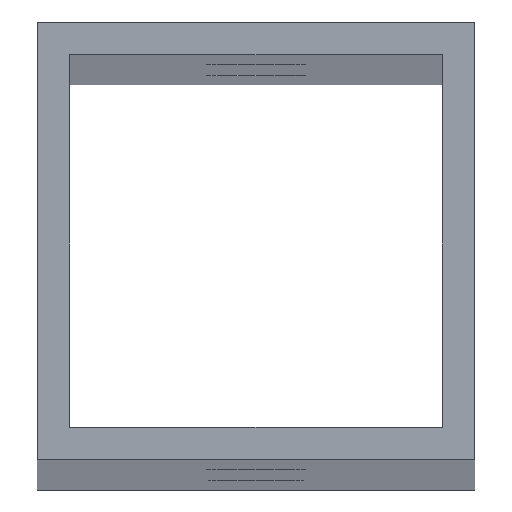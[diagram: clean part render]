
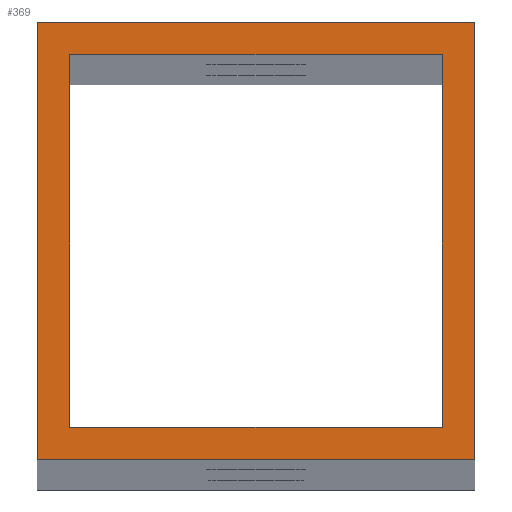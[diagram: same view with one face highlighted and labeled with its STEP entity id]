
A CAD part, top view. The second image highlights one B-rep face of the part: STEP entity #369.
In plain terms, the highlighted planar face has unit normal (0, 0, 1).
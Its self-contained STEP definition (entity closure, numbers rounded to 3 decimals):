
#37=CARTESIAN_POINT('',(3240.0,338.822,1700.0));
#38=VERTEX_POINT('',#37);
#45=CARTESIAN_POINT('',(3200.0,338.822,1700.0));
#46=VERTEX_POINT('',#45);
#47=CARTESIAN_POINT('',(3200.0,338.822,1700.0));
#48=DIRECTION('',(1.0,0.0,0.0));
#49=VECTOR('',#48,1.);
#50=LINE('',#47,#49);
#51=EDGE_CURVE('',#46,#38,#50,.T.);
#97=CARTESIAN_POINT('',(3240.0,378.822,1700.0));
#98=VERTEX_POINT('',#97);
#105=CARTESIAN_POINT('',(3240.0,338.822,1700.0));
#106=DIRECTION('',(0.,1.0,0.0));
#107=VECTOR('',#106,1.);
#108=LINE('',#105,#107);
#109=EDGE_CURVE('',#38,#98,#108,.T.);
#172=CARTESIAN_POINT('',(3200.0,378.822,1700.0));
#173=VERTEX_POINT('',#172);
#180=CARTESIAN_POINT('',(3240.0,378.822,1700.0));
#181=DIRECTION('',(-1.0,0.,0.0));
#182=VECTOR('',#181,1.);
#183=LINE('',#180,#182);
#184=EDGE_CURVE('',#98,#173,#183,.T.);
#224=CARTESIAN_POINT('',(3200.0,378.822,1700.0));
#225=DIRECTION('',(0.,-1.0,0.0));
#226=VECTOR('',#225,1.);
#227=LINE('',#224,#226);
#228=EDGE_CURVE('',#173,#46,#227,.T.);
#324=CARTESIAN_POINT('',(3200.0,338.822,1700.0));
#325=DIRECTION('',(0.0,0.0,1.0));
#326=DIRECTION('',(1.0,0.0,0.0));
#327=AXIS2_PLACEMENT_3D('',#324,#325,#326);
#328=PLANE('',#327);
#329=ORIENTED_EDGE('',*,*,#51,.T.);
#330=ORIENTED_EDGE('',*,*,#109,.T.);
#331=ORIENTED_EDGE('',*,*,#184,.T.);
#332=ORIENTED_EDGE('',*,*,#228,.T.);
#333=EDGE_LOOP('',(#329,#330,#331,#332));
#334=FACE_OUTER_BOUND('',#333,.T.);
#335=CARTESIAN_POINT('',(3203.0,375.822,1700.0));
#336=VERTEX_POINT('',#335);
#337=CARTESIAN_POINT('',(3203.0,341.822,1700.0));
#338=VERTEX_POINT('',#337);
#339=CARTESIAN_POINT('',(3203.0,375.822,1700.0));
#340=DIRECTION('',(0.0,-1.0,0.0));
#341=VECTOR('',#340,1.);
#342=LINE('',#339,#341);
#343=EDGE_CURVE('',#336,#338,#342,.T.);
#344=ORIENTED_EDGE('',*,*,#343,.F.);
#345=CARTESIAN_POINT('',(3237.0,375.822,1700.0));
#346=VERTEX_POINT('',#345);
#347=CARTESIAN_POINT('',(3237.0,375.822,1700.0));
#348=DIRECTION('',(-1.0,0.0,0.0));
#349=VECTOR('',#348,1.);
#350=LINE('',#347,#349);
#351=EDGE_CURVE('',#346,#336,#350,.T.);
#352=ORIENTED_EDGE('',*,*,#351,.F.);
#353=CARTESIAN_POINT('',(3237.0,341.822,1700.0));
#354=VERTEX_POINT('',#353);
#355=CARTESIAN_POINT('',(3237.0,341.822,1700.0));
#356=DIRECTION('',(0.0,1.0,0.0));
#357=VECTOR('',#356,1.);
#358=LINE('',#355,#357);
#359=EDGE_CURVE('',#354,#346,#358,.T.);
#360=ORIENTED_EDGE('',*,*,#359,.F.);
#361=CARTESIAN_POINT('',(3203.0,341.822,1700.0));
#362=DIRECTION('',(1.0,0.0,0.0));
#363=VECTOR('',#362,1.);
#364=LINE('',#361,#363);
#365=EDGE_CURVE('',#338,#354,#364,.T.);
#366=ORIENTED_EDGE('',*,*,#365,.F.);
#367=EDGE_LOOP('',(#344,#352,#360,#366));
#368=FACE_BOUND('',#367,.T.);
#369=ADVANCED_FACE('',(#334,#368),#328,.T.);
